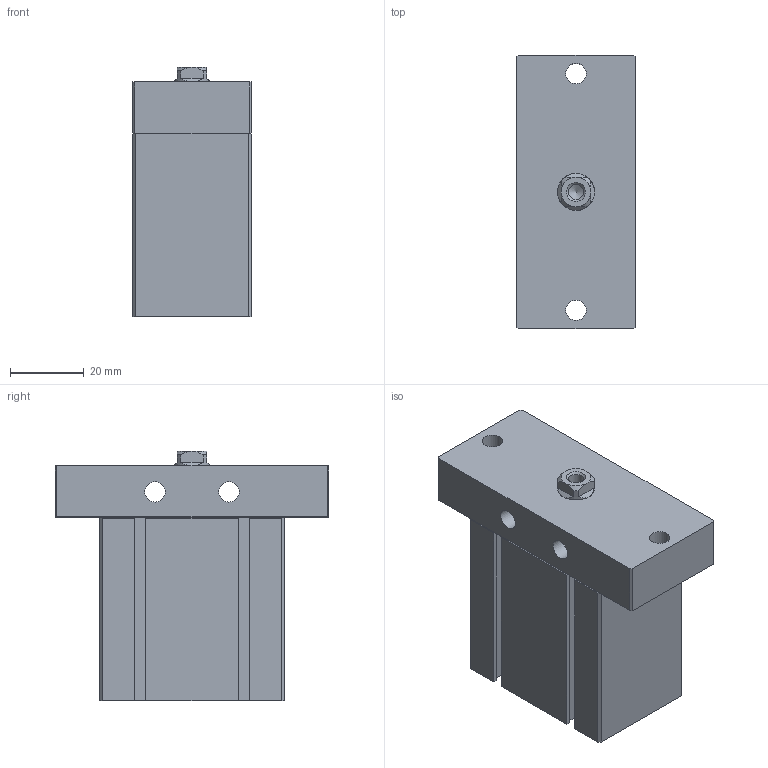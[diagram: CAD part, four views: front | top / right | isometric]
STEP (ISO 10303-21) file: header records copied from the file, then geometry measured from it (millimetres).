
FILE_DESCRIPTION((''),'2;1');
FILE_NAME('J:\3D電子目錄\氣缸\ND\ND\ND25-F\ND25x20-F.stp','2008-03-12T14:12:28',('66-2f-008'),(''),'Autodesk Inventor 11','Autodesk Inventor 11','');
FILE_SCHEMA(('AUTOMOTIVE_DESIGN { 1 0 10303 214 1 1 1 1 }'));
Length unit declared in the file: millimetre
Products named in the file (1): ND25-F
Bounding box: 32 x 74 x 67.5 mm (x, y, z)
Volume: 102868.5 mm3; surface area: 21573.5 mm2
Topology: 2 solids, 2 shells, 119 faces, 289 edges, 183 vertices
Faces by surface type: plane 79, bspline 16, cone 12, cylinder 11, torus 1
Full cylindrical faces by diameter (mm): 1.5 x2, 5.5 x2, 17 x1, 28 x1, 29.4 x1
Entity records: 3424 total; most frequent: CARTESIAN_POINT 784, DIRECTION 516, ORIENTED_EDGE 510, EDGE_CURVE 255, VECTOR 186, LINE 186, VERTEX_POINT 177, AXIS2_PLACEMENT_3D 165
